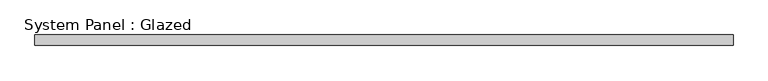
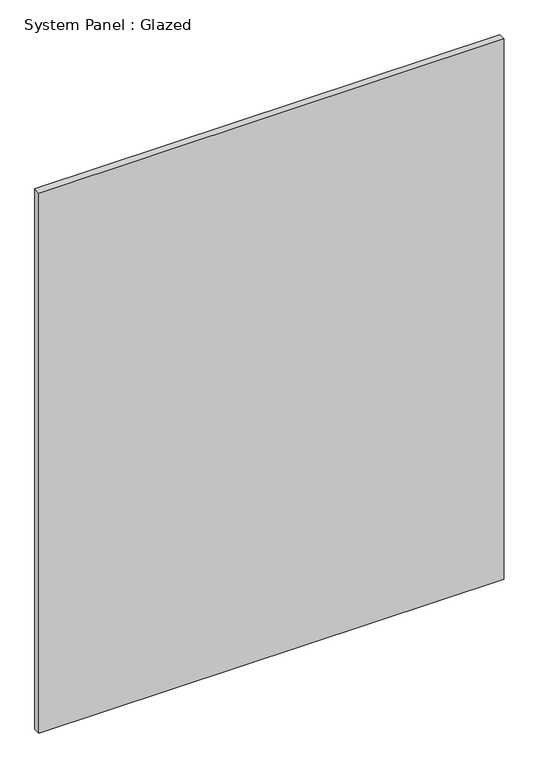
"""IFC4 building model written with IfcOpenShell, lengths in millimetres: plate geometry, System Panel : Glazed."""

from ifc_helpers import new_model, si_unit, origin, origin_with_axes, place, context, project, spatial, polyline, outline, extrude, source, transform, mapped, element, save


def system_panel_glazed_89848a93(model_context):
    return source(origin(), model_context, "Body", "SweptSolid", [
        extrude(outline(polyline([(825.0, 24.5), (-825.0, 24.5), (-825.0, 49.5), (825.0, 49.5), (825.0, 24.5)])), origin_with_axes(), (0.0, 0.0, 1.0), 2025.0),
    ])


if __name__ == "__main__":
    model = new_model("IFC4")
    model_context = context("Model", 3, world=origin())
    ifc_project = project(units=[si_unit("LENGTHUNIT", "METRE", prefix="MILLI")], contexts=[model_context])
    site = spatial("IfcSite", under=ifc_project)
    building = spatial("IfcBuilding", under=site)
    placement = place(None, origin())
    system_panel_glazed_shape = system_panel_glazed_89848a93(model_context)
    element("IfcPlate", 1, ObjectType="System Panel : Glazed", at=placement, inside=building, context=model_context, shape_type="MappedRepresentation", body=[
        mapped(system_panel_glazed_shape, transform((0.0, 0.0, 0.0), x_axis=(1.0, 0.0, 0.0), y_axis=(0.0, 1.0, 0.0), z_axis=(0.0, 0.0, 1.0))),
    ])
    save(model, "model.ifc")
